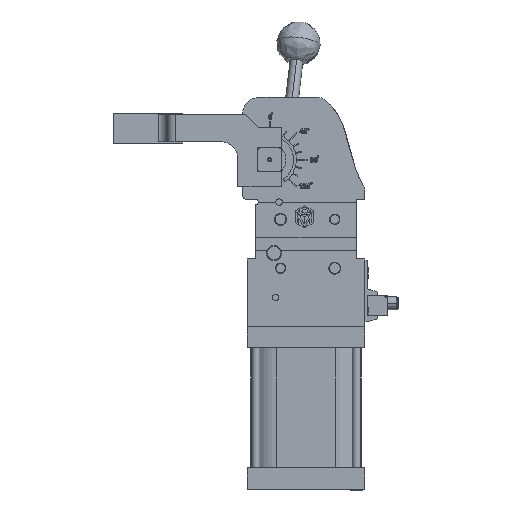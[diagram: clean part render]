
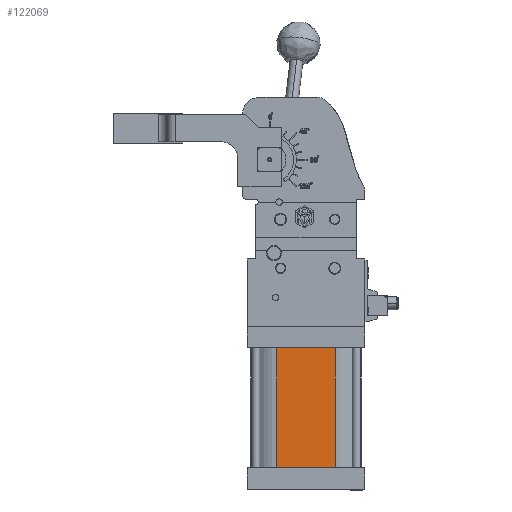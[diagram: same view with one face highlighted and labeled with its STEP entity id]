
A CAD part, front view. The second image highlights one B-rep face of the part: STEP entity #122069.
In plain terms, the highlighted planar face has unit normal (0, -1, 0).
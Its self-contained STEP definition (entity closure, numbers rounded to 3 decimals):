
#5454 = VECTOR ( 'NONE', #19615, 1000. ) ;
#7058 = CARTESIAN_POINT ( 'NONE',  ( 62.916, -53.419, 114. ) ) ;
#7577 = EDGE_CURVE ( 'NONE', #107792, #13716, #73147, .T. ) ;
#8795 = CARTESIAN_POINT ( 'NONE',  ( 35.916, -53.419, 114. ) ) ;
#9622 = DIRECTION ( 'NONE',  ( 0., 0., -1. ) ) ;
#9646 = VERTEX_POINT ( 'NONE', #8795 ) ;
#13716 = VERTEX_POINT ( 'NONE', #51640 ) ;
#19615 = DIRECTION ( 'NONE',  ( 1., 0., 0. ) ) ;
#22070 = CARTESIAN_POINT ( 'NONE',  ( 62.916, -53.419, 0. ) ) ;
#26788 = AXIS2_PLACEMENT_3D ( 'NONE', #22070, #125664, #9622 ) ;
#27841 = DIRECTION ( 'NONE',  ( -1., 0., 0. ) ) ;
#35914 = DIRECTION ( 'NONE',  ( 0., 0., 1. ) ) ;
#38195 = ORIENTED_EDGE ( 'NONE', *, *, #80230, .T. ) ;
#39568 = FACE_OUTER_BOUND ( 'NONE', #55991, .T. ) ;
#51640 = CARTESIAN_POINT ( 'NONE',  ( 89.916, -53.419, 4. ) ) ;
#52973 = VECTOR ( 'NONE', #35914, 1000. ) ;
#53779 = LINE ( 'NONE', #83821, #123418 ) ;
#55991 = EDGE_LOOP ( 'NONE', ( #110308, #38195, #97603, #100952 ) ) ;
#59030 = VERTEX_POINT ( 'NONE', #67288 ) ;
#60049 = EDGE_CURVE ( 'NONE', #107792, #9646, #97965, .T. ) ;
#67288 = CARTESIAN_POINT ( 'NONE',  ( 89.916, -53.419, 114. ) ) ;
#71752 = CARTESIAN_POINT ( 'NONE',  ( 62.916, -53.419, 4. ) ) ;
#72903 = PLANE ( 'NONE',  #26788 ) ;
#73147 = LINE ( 'NONE', #71752, #5454 ) ;
#80230 = EDGE_CURVE ( 'NONE', #13716, #59030, #53779, .T. ) ;
#83821 = CARTESIAN_POINT ( 'NONE',  ( 89.916, -53.419, 0. ) ) ;
#97603 = ORIENTED_EDGE ( 'NONE', *, *, #119546, .T. ) ;
#97965 = LINE ( 'NONE', #109448, #52973 ) ;
#100952 = ORIENTED_EDGE ( 'NONE', *, *, #60049, .F. ) ;
#107792 = VERTEX_POINT ( 'NONE', #116527 ) ;
#109448 = CARTESIAN_POINT ( 'NONE',  ( 35.916, -53.419, 0. ) ) ;
#110308 = ORIENTED_EDGE ( 'NONE', *, *, #7577, .T. ) ;
#111875 = LINE ( 'NONE', #7058, #131633 ) ;
#116527 = CARTESIAN_POINT ( 'NONE',  ( 35.916, -53.419, 4. ) ) ;
#119546 = EDGE_CURVE ( 'NONE', #59030, #9646, #111875, .T. ) ;
#122069 = ADVANCED_FACE ( 'NONE', ( #39568 ), #72903, .T. ) ;
#123418 = VECTOR ( 'NONE', #124115, 1000. ) ;
#124115 = DIRECTION ( 'NONE',  ( 0., 0., 1. ) ) ;
#125664 = DIRECTION ( 'NONE',  ( 0., -1., 0. ) ) ;
#131633 = VECTOR ( 'NONE', #27841, 1000. ) ;
